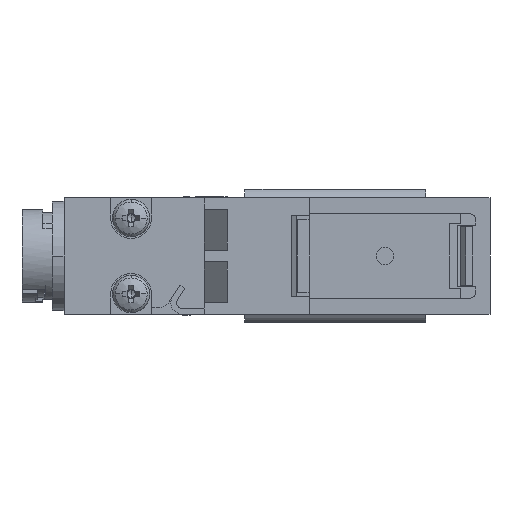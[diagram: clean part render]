
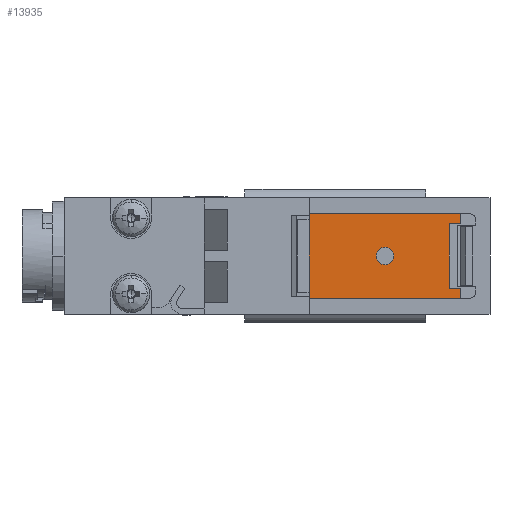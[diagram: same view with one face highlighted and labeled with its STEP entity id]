
A CAD part, left-side view. The second image highlights one B-rep face of the part: STEP entity #13935.
In plain terms, the highlighted planar face has unit normal (-1, 0, 0) as drawn and (0, 0, 1) by its records, which use the part's own axes.
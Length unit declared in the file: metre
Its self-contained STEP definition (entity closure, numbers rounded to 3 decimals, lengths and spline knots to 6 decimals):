
#664 = EDGE_CURVE ( 'NONE', #15682, #13114, #5099, .T. ) ;
#677 = ORIENTED_EDGE ( 'NONE', *, *, #1682, .T. ) ;
#691 = CIRCLE ( 'NONE', #1026, 0.00075 ) ;
#927 = EDGE_CURVE ( 'NONE', #14407, #16399, #14685, .T. ) ;
#993 = DIRECTION ( 'NONE',  ( 1., 0., 0. ) ) ;
#1026 = AXIS2_PLACEMENT_3D ( 'NONE', #6273, #15211, #7532 ) ;
#1066 = LINE ( 'NONE', #5043, #7369 ) ;
#1682 = EDGE_CURVE ( 'NONE', #5920, #6331, #15660, .T. ) ;
#1960 = CARTESIAN_POINT ( 'NONE',  ( -0.003188, 0.0036, 0.006 ) ) ;
#2189 = CARTESIAN_POINT ( 'NONE',  ( 0.00275, 0.0046, 0.006 ) ) ;
#2292 = EDGE_CURVE ( 'NONE', #13218, #5920, #7148, .T. ) ;
#2641 = CARTESIAN_POINT ( 'NONE',  ( 0.003625, 0.0166, 0.006 ) ) ;
#2864 = CARTESIAN_POINT ( 'NONE',  ( 0.003625, 0.0036, 0.006 ) ) ;
#3179 = CARTESIAN_POINT ( 'NONE',  ( 0.00275, 0.0036, 0.006 ) ) ;
#3561 = LINE ( 'NONE', #8536, #10272 ) ;
#3712 = LINE ( 'NONE', #14726, #10033 ) ;
#3841 = CARTESIAN_POINT ( 'NONE',  ( 0., 0.0166, 0.006 ) ) ;
#3933 = EDGE_LOOP ( 'NONE', ( #4645, #5326 ) ) ;
#4064 = VERTEX_POINT ( 'NONE', #2189 ) ;
#4101 = DIRECTION ( 'NONE',  ( 1., 0., 0. ) ) ;
#4136 = DIRECTION ( 'NONE',  ( -1., 0., 0. ) ) ;
#4444 = LINE ( 'NONE', #6044, #14220 ) ;
#4645 = ORIENTED_EDGE ( 'NONE', *, *, #15139, .F. ) ;
#5043 = CARTESIAN_POINT ( 'NONE',  ( 0.00275, 0.0041, 0.006 ) ) ;
#5099 = CIRCLE ( 'NONE', #12631, 0.00075 ) ;
#5320 = VECTOR ( 'NONE', #6225, 1. ) ;
#5326 = ORIENTED_EDGE ( 'NONE', *, *, #664, .F. ) ;
#5729 = EDGE_LOOP ( 'NONE', ( #677, #10578, #9718, #8530, #12245, #6790, #7524, #8285 ) ) ;
#5920 = VERTEX_POINT ( 'NONE', #6205 ) ;
#6041 = FACE_BOUND ( 'NONE', #3933, .T. ) ;
#6044 = CARTESIAN_POINT ( 'NONE',  ( 0.003625, 0.0101, 0.006 ) ) ;
#6205 = CARTESIAN_POINT ( 'NONE',  ( -0.00275, 0.0036, 0.006 ) ) ;
#6225 = DIRECTION ( 'NONE',  ( -1., 0., 0. ) ) ;
#6273 = CARTESIAN_POINT ( 'NONE',  ( 0., 0.0101, 0.006 ) ) ;
#6331 = VERTEX_POINT ( 'NONE', #9883 ) ;
#6358 = VECTOR ( 'NONE', #10801, 1. ) ;
#6790 = ORIENTED_EDGE ( 'NONE', *, *, #927, .F. ) ;
#7148 = LINE ( 'NONE', #1960, #6358 ) ;
#7307 = DIRECTION ( 'NONE',  ( 0., -1., 0. ) ) ;
#7369 = VECTOR ( 'NONE', #7526, 1. ) ;
#7482 = EDGE_CURVE ( 'NONE', #16399, #12959, #4444, .T. ) ;
#7524 = ORIENTED_EDGE ( 'NONE', *, *, #12467, .F. ) ;
#7526 = DIRECTION ( 'NONE',  ( 0., -1., 0. ) ) ;
#7532 = DIRECTION ( 'NONE',  ( 1., 0., 0. ) ) ;
#8188 = CARTESIAN_POINT ( 'NONE',  ( 0.00075, 0.0101, 0.006 ) ) ;
#8285 = ORIENTED_EDGE ( 'NONE', *, *, #2292, .T. ) ;
#8320 = DIRECTION ( 'NONE',  ( 0., 1., 0. ) ) ;
#8530 = ORIENTED_EDGE ( 'NONE', *, *, #9805, .T. ) ;
#8536 = CARTESIAN_POINT ( 'NONE',  ( 0.003188, 0.0036, 0.006 ) ) ;
#8691 = CARTESIAN_POINT ( 'NONE',  ( 0., 0.0101, 0.006 ) ) ;
#8758 = VERTEX_POINT ( 'NONE', #3179 ) ;
#8778 = DIRECTION ( 'NONE',  ( 0., 0., 1. ) ) ;
#9016 = DIRECTION ( 'NONE',  ( 1., 0., 0. ) ) ;
#9090 = EDGE_CURVE ( 'NONE', #4064, #8758, #1066, .T. ) ;
#9718 = ORIENTED_EDGE ( 'NONE', *, *, #9090, .T. ) ;
#9805 = EDGE_CURVE ( 'NONE', #8758, #12959, #3561, .T. ) ;
#9883 = CARTESIAN_POINT ( 'NONE',  ( -0.00275, 0.0046, 0.006 ) ) ;
#9931 = EDGE_CURVE ( 'NONE', #4064, #6331, #12095, .T. ) ;
#10033 = VECTOR ( 'NONE', #8320, 1. ) ;
#10272 = VECTOR ( 'NONE', #993, 1. ) ;
#10446 = PLANE ( 'NONE',  #11709 ) ;
#10471 = CARTESIAN_POINT ( 'NONE',  ( 0.003625, 0.0036, 0.006 ) ) ;
#10578 = ORIENTED_EDGE ( 'NONE', *, *, #9931, .F. ) ;
#10801 = DIRECTION ( 'NONE',  ( 1., 0., 0. ) ) ;
#11244 = VECTOR ( 'NONE', #4101, 1. ) ;
#11263 = CARTESIAN_POINT ( 'NONE',  ( 0., 0.0046, 0.006 ) ) ;
#11709 = AXIS2_PLACEMENT_3D ( 'NONE', #2864, #11740, #4136 ) ;
#11740 = DIRECTION ( 'NONE',  ( 0., 0., -1. ) ) ;
#12095 = LINE ( 'NONE', #11263, #5320 ) ;
#12235 = VECTOR ( 'NONE', #15849, 1. ) ;
#12245 = ORIENTED_EDGE ( 'NONE', *, *, #7482, .F. ) ;
#12467 = EDGE_CURVE ( 'NONE', #13218, #14407, #3712, .T. ) ;
#12582 = CARTESIAN_POINT ( 'NONE',  ( -0.003625, 0.0166, 0.006 ) ) ;
#12631 = AXIS2_PLACEMENT_3D ( 'NONE', #8691, #8778, #9016 ) ;
#12806 = FACE_OUTER_BOUND ( 'NONE', #5729, .T. ) ;
#12959 = VERTEX_POINT ( 'NONE', #10471 ) ;
#13114 = VERTEX_POINT ( 'NONE', #8188 ) ;
#13218 = VERTEX_POINT ( 'NONE', #14819 ) ;
#13802 = CARTESIAN_POINT ( 'NONE',  ( -0.00075, 0.0101, 0.006 ) ) ;
#13935 = ADVANCED_FACE ( 'NONE', ( #6041, #12806 ), #10446, .F. ) ;
#14220 = VECTOR ( 'NONE', #7307, 1. ) ;
#14407 = VERTEX_POINT ( 'NONE', #12582 ) ;
#14685 = LINE ( 'NONE', #3841, #11244 ) ;
#14726 = CARTESIAN_POINT ( 'NONE',  ( -0.003625, 0.0101, 0.006 ) ) ;
#14819 = CARTESIAN_POINT ( 'NONE',  ( -0.003625, 0.0036, 0.006 ) ) ;
#15139 = EDGE_CURVE ( 'NONE', #13114, #15682, #691, .T. ) ;
#15211 = DIRECTION ( 'NONE',  ( 0., 0., 1. ) ) ;
#15660 = LINE ( 'NONE', #16127, #12235 ) ;
#15682 = VERTEX_POINT ( 'NONE', #13802 ) ;
#15849 = DIRECTION ( 'NONE',  ( 0., 1., 0. ) ) ;
#16127 = CARTESIAN_POINT ( 'NONE',  ( -0.00275, 0.0041, 0.006 ) ) ;
#16399 = VERTEX_POINT ( 'NONE', #2641 ) ;
